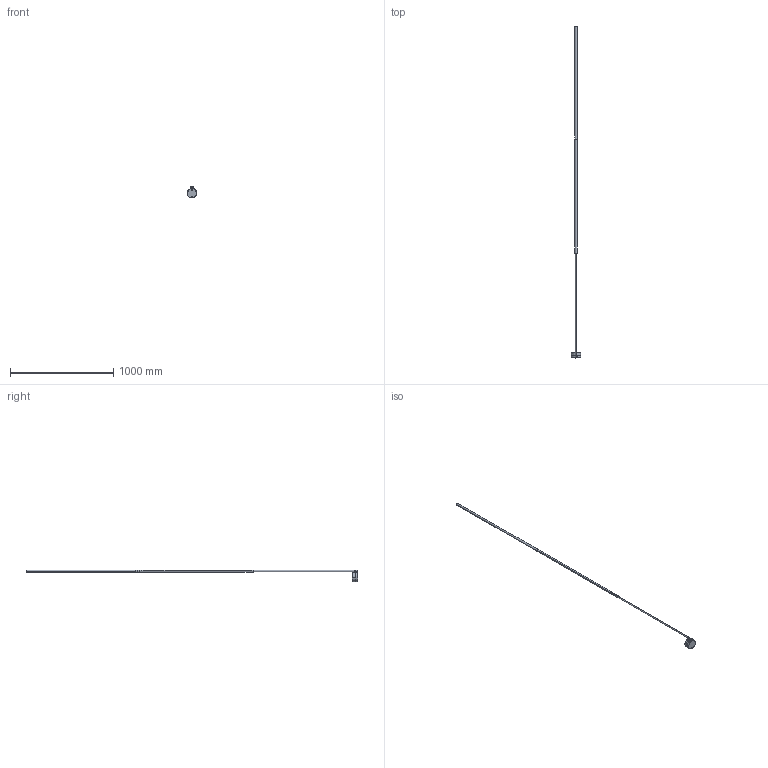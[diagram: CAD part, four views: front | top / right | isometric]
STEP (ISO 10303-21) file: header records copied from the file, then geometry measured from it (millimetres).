
FILE_DESCRIPTION((''),'2;1');
FILE_NAME('QUARTA-PROPOSTA_SW0001','2025-05-27T11:23:53',('elena.baldelli'),(''),'CREO PARAMETRIC BY PTC INC, 2020354','CREO PARAMETRIC BY PTC INC, 2020354','');
FILE_SCHEMA(('CONFIG_CONTROL_DESIGN'));
Length unit declared in the file: millimetre
Products named in the file (1): QUARTA-PROPOSTA_SW0001
Bounding box: 91.36 x 3217.07 x 113.68 mm (x, y, z)
Surface area: 224055 mm2 (no closed solid volume)
Topology: 0 solids, 12 shells, 40 faces, 178 edges, 141 vertices
Faces by surface type: plane 12, cylinder 11, cone 8, torus 6, bspline 3
Entity records: 4730 total; most frequent: CARTESIAN_POINT 3296, DIRECTION 290, ORIENTED_EDGE 229, EDGE_CURVE 178, VERTEX_POINT 141, AXIS2_PLACEMENT_3D 113, CIRCLE 76, VECTOR 64
